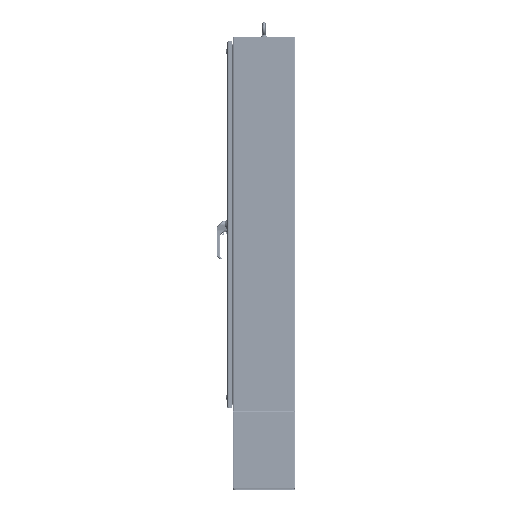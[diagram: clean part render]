
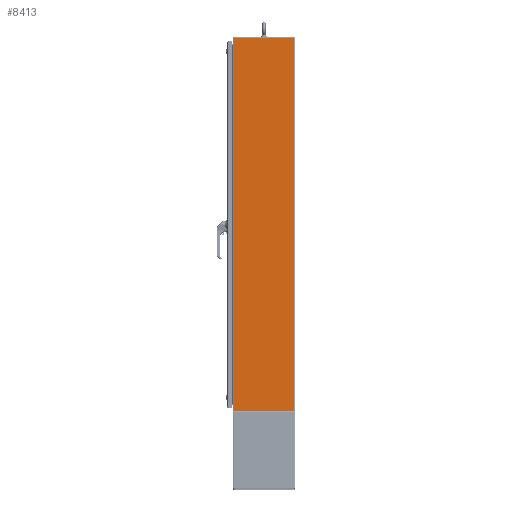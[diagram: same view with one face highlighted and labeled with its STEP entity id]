
A CAD part, top view. The second image highlights one B-rep face of the part: STEP entity #8413.
In plain terms, the highlighted planar face has unit normal (0, 0, 1) as drawn and (-1, 0, 0) by its records, which use the part's own axes.
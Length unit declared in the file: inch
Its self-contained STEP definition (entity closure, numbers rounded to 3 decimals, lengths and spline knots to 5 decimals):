
#7041=DIRECTION('',(0.,-1.,0.));
#7042=VECTOR('',#7041,11.507);
#7043=CARTESIAN_POINT('',(-3.6355,9.566,-71.792));
#7044=LINE('',#7043,#7042);
#7055=DIRECTION('',(0.,1.,0.));
#7056=VECTOR('',#7055,11.507);
#7057=CARTESIAN_POINT('',(-3.6355,-1.941,0.));
#7058=LINE('',#7057,#7056);
#7098=DIRECTION('',(0.,0.,1.));
#7099=VECTOR('',#7098,71.792);
#7100=CARTESIAN_POINT('',(-3.6355,9.566,-71.792));
#7101=LINE('',#7100,#7099);
#7281=DIRECTION('',(0.,0.,-1.));
#7282=VECTOR('',#7281,71.792);
#7283=CARTESIAN_POINT('',(-3.6355,-1.941,0.));
#7284=LINE('',#7283,#7282);
#8210=CARTESIAN_POINT('',(-3.6355,-1.941,-71.792));
#8211=VERTEX_POINT('',#8210);
#8212=CARTESIAN_POINT('',(-3.6355,-1.941,0.));
#8213=VERTEX_POINT('',#8212);
#8370=CARTESIAN_POINT('',(-3.6355,9.566,0.));
#8371=VERTEX_POINT('',#8370);
#8372=CARTESIAN_POINT('',(-3.6355,9.566,-71.792));
#8373=VERTEX_POINT('',#8372);
#8398=CARTESIAN_POINT('',(-3.6355,9.7605,0.));
#8399=DIRECTION('',(-1.,0.,0.));
#8400=DIRECTION('',(0.,-1.,0.));
#8401=AXIS2_PLACEMENT_3D('',#8398,#8399,#8400);
#8402=PLANE('',#8401);
#8404=ORIENTED_EDGE('',*,*,#8403,.F.);
#8406=ORIENTED_EDGE('',*,*,#8405,.T.);
#8408=ORIENTED_EDGE('',*,*,#8407,.F.);
#8410=ORIENTED_EDGE('',*,*,#8409,.T.);
#8411=EDGE_LOOP('',(#8404,#8406,#8408,#8410));
#8412=FACE_OUTER_BOUND('',#8411,.F.);
#8403=EDGE_CURVE('',#8373,#8211,#7044,.T.);
#8405=EDGE_CURVE('',#8373,#8371,#7101,.T.);
#8407=EDGE_CURVE('',#8213,#8371,#7058,.T.);
#8409=EDGE_CURVE('',#8213,#8211,#7284,.T.);
#8413=ADVANCED_FACE('',(#8412),#8402,.T.);
